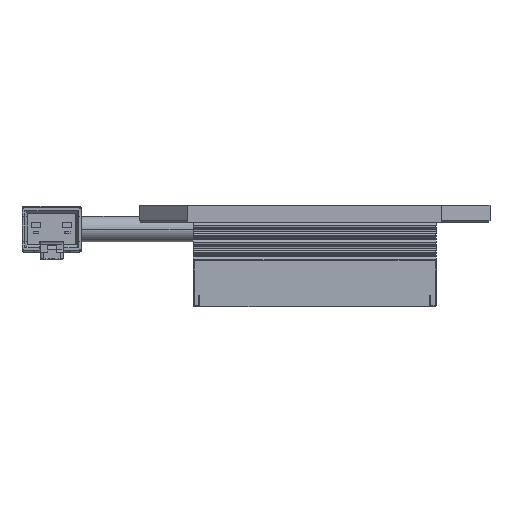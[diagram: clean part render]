
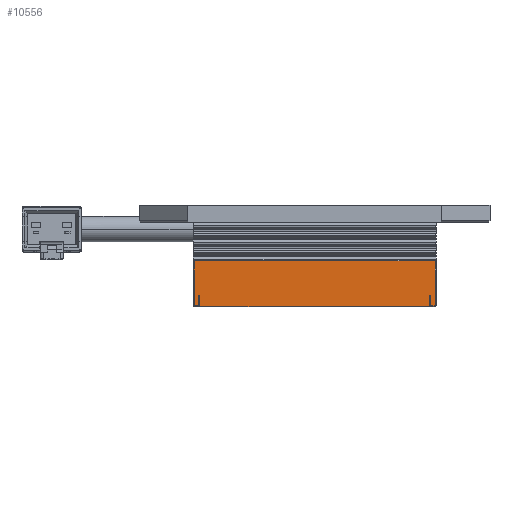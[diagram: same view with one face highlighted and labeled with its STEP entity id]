
A CAD part, left-side view. The second image highlights one B-rep face of the part: STEP entity #10556.
In plain terms, the highlighted planar face has unit normal (-1, 0, 0).
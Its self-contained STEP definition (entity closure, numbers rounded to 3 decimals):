
#1357=DIRECTION('',(0.,-1.,0.));
#1358=VECTOR('',#1357,0.2);
#1359=CARTESIAN_POINT('',(-21.5,-20.3,-13.));
#1360=LINE('',#1359,#1358);
#1361=DIRECTION('',(0.,0.,1.));
#1362=VECTOR('',#1361,2.);
#1363=CARTESIAN_POINT('',(-21.5,-20.3,-15.));
#1364=LINE('',#1363,#1362);
#1365=DIRECTION('',(0.,-1.,0.));
#1366=VECTOR('',#1365,40.6);
#1367=CARTESIAN_POINT('',(-21.5,20.3,-15.));
#1368=LINE('',#1367,#1366);
#1369=DIRECTION('',(0.,0.,-1.));
#1370=VECTOR('',#1369,2.);
#1371=CARTESIAN_POINT('',(-21.5,20.3,-13.));
#1372=LINE('',#1371,#1370);
#1373=DIRECTION('',(0.,-1.,0.));
#1374=VECTOR('',#1373,0.2);
#1375=CARTESIAN_POINT('',(-21.5,20.5,-13.));
#1376=LINE('',#1375,#1374);
#1377=DIRECTION('',(0.,-1.,0.));
#1378=VECTOR('',#1377,0.8);
#1379=CARTESIAN_POINT('',(-21.5,-20.5,-14.8));
#1380=LINE('',#1379,#1378);
#1381=DIRECTION('',(0.,0.,-1.));
#1382=VECTOR('',#1381,1.8);
#1383=CARTESIAN_POINT('',(-21.5,-20.5,-13.));
#1384=LINE('',#1383,#1382);
#1405=DIRECTION('',(0.,0.,-1.));
#1406=VECTOR('',#1405,1.8);
#1407=CARTESIAN_POINT('',(-21.5,20.5,-13.));
#1408=LINE('',#1407,#1406);
#3747=DIRECTION('',(0.,0.,1.));
#3748=VECTOR('',#3747,7.95);
#3749=CARTESIAN_POINT('',(-21.5,21.3,-14.8));
#3750=LINE('',#3749,#3748);
#3751=DIRECTION('',(0.,-1.,0.));
#3752=VECTOR('',#3751,42.6);
#3753=CARTESIAN_POINT('',(-21.5,21.3,-6.85));
#3754=LINE('',#3753,#3752);
#3759=DIRECTION('',(0.,0.,-1.));
#3760=VECTOR('',#3759,7.95);
#3761=CARTESIAN_POINT('',(-21.5,-21.3,-6.85));
#3762=LINE('',#3761,#3760);
#3841=DIRECTION('',(0.,1.,0.));
#3842=VECTOR('',#3841,0.8);
#3843=CARTESIAN_POINT('',(-21.5,20.5,-14.8));
#3844=LINE('',#3843,#3842);
#6798=CARTESIAN_POINT('',(-21.5,20.5,-13.));
#6800=VERTEX_POINT('',#6798);
#6801=CARTESIAN_POINT('',(-21.5,-20.5,-13.));
#6803=VERTEX_POINT('',#6801);
#6960=CARTESIAN_POINT('',(-21.5,-20.5,-14.8));
#6962=VERTEX_POINT('',#6960);
#6963=CARTESIAN_POINT('',(-21.5,-21.3,-14.8));
#6964=VERTEX_POINT('',#6963);
#6969=CARTESIAN_POINT('',(-21.5,21.3,-6.85));
#6970=CARTESIAN_POINT('',(-21.5,-21.3,-6.85));
#6971=VERTEX_POINT('',#6969);
#6972=VERTEX_POINT('',#6970);
#6973=CARTESIAN_POINT('',(-21.5,20.5,-14.8));
#6974=VERTEX_POINT('',#6973);
#6975=CARTESIAN_POINT('',(-21.5,21.3,-14.8));
#6976=VERTEX_POINT('',#6975);
#7137=CARTESIAN_POINT('',(-21.5,20.3,-15.));
#7139=VERTEX_POINT('',#7137);
#7140=CARTESIAN_POINT('',(-21.5,-20.3,-15.));
#7141=VERTEX_POINT('',#7140);
#8363=CARTESIAN_POINT('',(-21.5,20.3,-13.));
#8365=VERTEX_POINT('',#8363);
#8367=CARTESIAN_POINT('',(-21.5,-20.3,-13.));
#8369=VERTEX_POINT('',#8367);
#10529=CARTESIAN_POINT('',(-21.5,-21.5,0.));
#10530=DIRECTION('',(-1.,0.,0.));
#10531=DIRECTION('',(0.,1.,0.));
#10532=AXIS2_PLACEMENT_3D('',#10529,#10530,#10531);
#10533=PLANE('',#10532);
#10534=ORIENTED_EDGE('',*,*,#10508,.F.);
#10536=ORIENTED_EDGE('',*,*,#10535,.F.);
#10537=ORIENTED_EDGE('',*,*,#8956,.F.);
#10538=ORIENTED_EDGE('',*,*,#10522,.F.);
#10539=ORIENTED_EDGE('',*,*,#10496,.F.);
#10541=ORIENTED_EDGE('',*,*,#10540,.T.);
#10543=ORIENTED_EDGE('',*,*,#10542,.T.);
#10545=ORIENTED_EDGE('',*,*,#10544,.T.);
#10547=ORIENTED_EDGE('',*,*,#10546,.T.);
#10549=ORIENTED_EDGE('',*,*,#10548,.T.);
#10551=ORIENTED_EDGE('',*,*,#10550,.F.);
#10553=ORIENTED_EDGE('',*,*,#10552,.F.);
#10554=EDGE_LOOP('',(#10534,#10536,#10537,#10538,#10539,#10541,#10543,#10545,
#10547,#10549,#10551,#10553));
#10555=FACE_OUTER_BOUND('',#10554,.F.);
#10556=ADVANCED_FACE('',(#10555),#10533,.T.);
#8956=EDGE_CURVE('',#7139,#7141,#1368,.T.);
#10496=EDGE_CURVE('',#6800,#8365,#1376,.T.);
#10508=EDGE_CURVE('',#8369,#6803,#1360,.T.);
#10522=EDGE_CURVE('',#8365,#7139,#1372,.T.);
#10535=EDGE_CURVE('',#7141,#8369,#1364,.T.);
#10540=EDGE_CURVE('',#6800,#6974,#1408,.T.);
#10542=EDGE_CURVE('',#6974,#6976,#3844,.T.);
#10544=EDGE_CURVE('',#6976,#6971,#3750,.T.);
#10546=EDGE_CURVE('',#6971,#6972,#3754,.T.);
#10548=EDGE_CURVE('',#6972,#6964,#3762,.T.);
#10550=EDGE_CURVE('',#6962,#6964,#1380,.T.);
#10552=EDGE_CURVE('',#6803,#6962,#1384,.T.);
